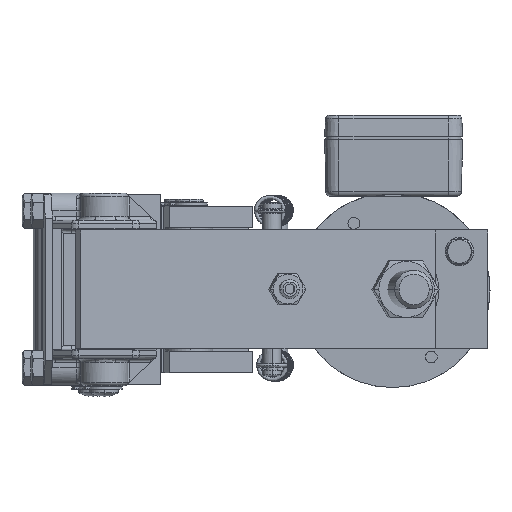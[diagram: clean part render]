
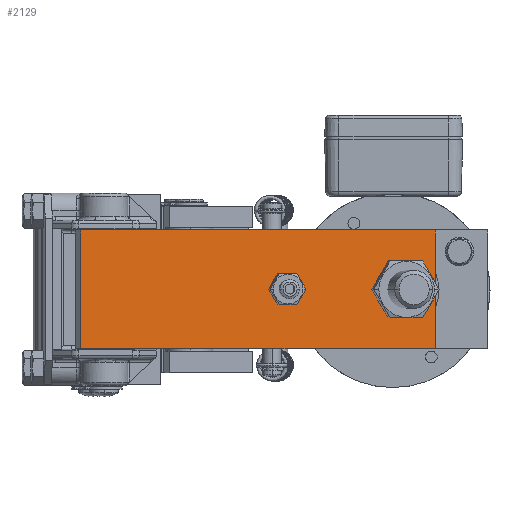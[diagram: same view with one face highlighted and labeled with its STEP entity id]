
A CAD part, left-side view. The second image highlights one B-rep face of the part: STEP entity #2129.
In plain terms, the highlighted planar face has unit normal (-0.993, -0.115, 0) as drawn and (1, 0, 0) by its records, which use the part's own axes.
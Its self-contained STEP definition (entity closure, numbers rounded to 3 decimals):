
#1408=DIRECTION('',(0.,1.,0.));
#1409=VECTOR('',#1408,150.);
#1410=CARTESIAN_POINT('',(10.,0.,-25.));
#1411=LINE('',#1410,#1409);
#1470=DIRECTION('',(0.,0.,-1.));
#1471=VECTOR('',#1470,50.);
#1472=CARTESIAN_POINT('',(10.,0.,25.));
#1473=LINE('',#1472,#1471);
#1630=DIRECTION('',(0.,0.,-1.));
#1631=VECTOR('',#1630,50.);
#1632=CARTESIAN_POINT('',(10.,150.,25.));
#1633=LINE('',#1632,#1631);
#1637=CARTESIAN_POINT('',(10.,137.,0.));
#1638=DIRECTION('',(1.,0.,0.));
#1639=DIRECTION('',(0.,-1.,0.));
#1640=AXIS2_PLACEMENT_3D('',#1637,#1638,#1639);
#1645=CARTESIAN_POINT('',(10.,137.,0.));
#1646=DIRECTION('',(1.,0.,0.));
#1647=DIRECTION('',(0.,1.,0.));
#1648=AXIS2_PLACEMENT_3D('',#1645,#1646,#1647);
#1653=CARTESIAN_POINT('',(10.,87.,0.137));
#1654=DIRECTION('',(1.,0.,0.));
#1655=DIRECTION('',(0.,-1.,0.));
#1656=AXIS2_PLACEMENT_3D('',#1653,#1654,#1655);
#1661=CARTESIAN_POINT('',(10.,87.,0.137));
#1662=DIRECTION('',(1.,0.,0.));
#1663=DIRECTION('',(0.,1.,0.));
#1664=AXIS2_PLACEMENT_3D('',#1661,#1662,#1663);
#1690=DIRECTION('',(0.,-1.,0.));
#1691=VECTOR('',#1690,150.);
#1692=CARTESIAN_POINT('',(10.,150.,25.));
#1693=LINE('',#1692,#1691);
#1854=CARTESIAN_POINT('',(10.,0.,-25.));
#1856=VERTEX_POINT('',#1854);
#1858=CARTESIAN_POINT('',(10.,150.,-25.));
#1859=VERTEX_POINT('',#1858);
#1876=CARTESIAN_POINT('',(10.,0.,25.));
#1877=VERTEX_POINT('',#1876);
#1898=CARTESIAN_POINT('',(10.,150.,25.));
#1899=VERTEX_POINT('',#1898);
#1906=CARTESIAN_POINT('',(10.,130.,0.));
#1907=CARTESIAN_POINT('',(10.,144.,0.));
#1908=VERTEX_POINT('',#1906);
#1909=VERTEX_POINT('',#1907);
#1910=CARTESIAN_POINT('',(10.,83.5,0.137));
#1911=CARTESIAN_POINT('',(10.,90.5,0.137));
#1912=VERTEX_POINT('',#1910);
#1913=VERTEX_POINT('',#1911);
#2106=CARTESIAN_POINT('',(10.,0.,-25.));
#2107=DIRECTION('',(1.,0.,0.));
#2108=DIRECTION('',(0.,1.,0.));
#2109=AXIS2_PLACEMENT_3D('',#2106,#2107,#2108);
#2110=PLANE('',#2109);
#2112=ORIENTED_EDGE('',*,*,#2111,.F.);
#2113=ORIENTED_EDGE('',*,*,#2037,.T.);
#2114=ORIENTED_EDGE('',*,*,#1941,.F.);
#2115=ORIENTED_EDGE('',*,*,#1978,.F.);
#2116=EDGE_LOOP('',(#2112,#2113,#2114,#2115));
#2117=FACE_OUTER_BOUND('',#2116,.F.);
#2118=ORIENTED_EDGE('',*,*,#2096,.T.);
#2120=ORIENTED_EDGE('',*,*,#2119,.T.);
#2121=EDGE_LOOP('',(#2118,#2120));
#2122=FACE_BOUND('',#2121,.F.);
#2124=ORIENTED_EDGE('',*,*,#2123,.T.);
#2126=ORIENTED_EDGE('',*,*,#2125,.T.);
#2127=EDGE_LOOP('',(#2124,#2126));
#2128=FACE_BOUND('',#2127,.F.);
#2129=ADVANCED_FACE('',(#2117,#2122,#2128),#2110,.T.);
#1641=CIRCLE('',#1640,7.);
#1649=CIRCLE('',#1648,7.);
#1657=CIRCLE('',#1656,3.5);
#1665=CIRCLE('',#1664,3.5);
#1941=EDGE_CURVE('',#1856,#1859,#1411,.T.);
#1978=EDGE_CURVE('',#1877,#1856,#1473,.T.);
#2037=EDGE_CURVE('',#1899,#1859,#1633,.T.);
#2096=EDGE_CURVE('',#1908,#1909,#1641,.T.);
#2111=EDGE_CURVE('',#1899,#1877,#1693,.T.);
#2119=EDGE_CURVE('',#1909,#1908,#1649,.T.);
#2123=EDGE_CURVE('',#1912,#1913,#1657,.T.);
#2125=EDGE_CURVE('',#1913,#1912,#1665,.T.);
